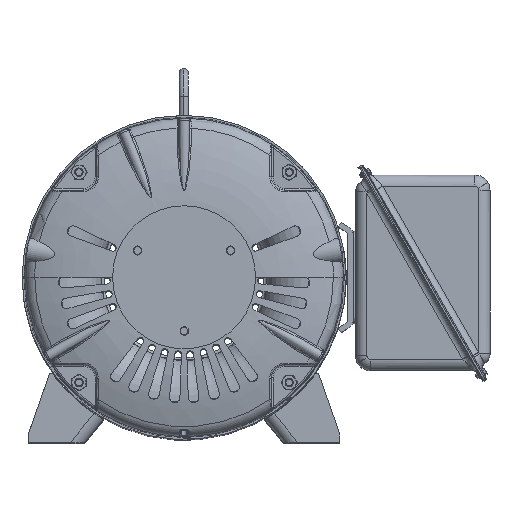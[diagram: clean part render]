
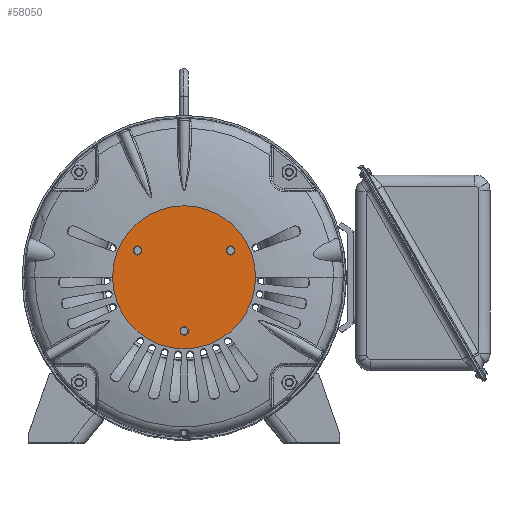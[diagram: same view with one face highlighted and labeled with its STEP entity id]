
A CAD part, top view. The second image highlights one B-rep face of the part: STEP entity #58050.
In plain terms, the highlighted planar face has unit normal (0, 0, 1).
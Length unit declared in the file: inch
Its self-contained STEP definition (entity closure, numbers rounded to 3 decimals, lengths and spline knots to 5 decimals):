
#84 = VERTEX_POINT ( 'NONE', #43289 ) ;
#2286 = AXIS2_PLACEMENT_3D ( 'NONE', #105327, #56581, #16827 ) ;
#3564 = ORIENTED_EDGE ( 'NONE', *, *, #129250, .F. ) ;
#4538 = ORIENTED_EDGE ( 'NONE', *, *, #63570, .F. ) ;
#7477 = VERTEX_POINT ( 'NONE', #18413 ) ;
#7654 = CARTESIAN_POINT ( 'NONE',  ( 0., 0., 19.4398 ) ) ;
#9804 = CARTESIAN_POINT ( 'NONE',  ( -3.08522, 1.78125, 19.4398 ) ) ;
#11006 = FACE_BOUND ( 'NONE', #125329, .T. ) ;
#12562 = AXIS2_PLACEMENT_3D ( 'NONE', #52904, #72868, #12696 ) ;
#12696 = DIRECTION ( 'NONE',  ( 1., 0., 0. ) ) ;
#12960 = ORIENTED_EDGE ( 'NONE', *, *, #101288, .F. ) ;
#14181 = FACE_BOUND ( 'NONE', #67751, .T. ) ;
#15890 = EDGE_CURVE ( 'NONE', #59736, #129161, #131041, .T. ) ;
#15961 = EDGE_CURVE ( 'NONE', #129161, #59736, #77161, .T. ) ;
#16827 = DIRECTION ( 'NONE',  ( 1., 0., 0. ) ) ;
#17368 = DIRECTION ( 'NONE',  ( 0., 0., 1. ) ) ;
#18413 = CARTESIAN_POINT ( 'NONE',  ( -3.25722, 1.78125, 19.4398 ) ) ;
#18658 = ORIENTED_EDGE ( 'NONE', *, *, #15890, .T. ) ;
#23422 = CARTESIAN_POINT ( 'NONE',  ( 0.172, -3.5625, 19.4398 ) ) ;
#26344 = AXIS2_PLACEMENT_3D ( 'NONE', #98304, #88595, #27528 ) ;
#27528 = DIRECTION ( 'NONE',  ( 1., 0., 0. ) ) ;
#27888 = CIRCLE ( 'NONE', #26344, 0.172 ) ;
#31408 = CARTESIAN_POINT ( 'NONE',  ( 0., -3.5625, 19.4398 ) ) ;
#34444 = DIRECTION ( 'NONE',  ( 0., 0., 1. ) ) ;
#35931 = CARTESIAN_POINT ( 'NONE',  ( 2.91322, 1.78125, 19.4398 ) ) ;
#40104 = CARTESIAN_POINT ( 'NONE',  ( -2.91322, 1.78125, 19.4398 ) ) ;
#40420 = CARTESIAN_POINT ( 'NONE',  ( 4.75, 0., 19.4398 ) ) ;
#41875 = VERTEX_POINT ( 'NONE', #76811 ) ;
#41922 = EDGE_LOOP ( 'NONE', ( #4538, #3564 ) ) ;
#42974 = VERTEX_POINT ( 'NONE', #35931 ) ;
#43289 = CARTESIAN_POINT ( 'NONE',  ( 3.25722, 1.78125, 19.4398 ) ) ;
#45532 = DIRECTION ( 'NONE',  ( 1., 0., 0. ) ) ;
#47502 = AXIS2_PLACEMENT_3D ( 'NONE', #59265, #17368, #99609 ) ;
#52904 = CARTESIAN_POINT ( 'NONE',  ( 0., 0., 19.4398 ) ) ;
#53415 = EDGE_CURVE ( 'NONE', #42974, #84, #74562, .T. ) ;
#54039 = VERTEX_POINT ( 'NONE', #40104 ) ;
#56581 = DIRECTION ( 'NONE',  ( 0., 0., 1. ) ) ;
#58050 = ADVANCED_FACE ( 'NONE', ( #14181, #11006, #110724, #131383 ), #82601, .T. ) ;
#58879 = ORIENTED_EDGE ( 'NONE', *, *, #129361, .F. ) ;
#58903 = ORIENTED_EDGE ( 'NONE', *, *, #99486, .F. ) ;
#59265 = CARTESIAN_POINT ( 'NONE',  ( -3.08522, 1.78125, 19.4398 ) ) ;
#59733 = DIRECTION ( 'NONE',  ( 1., 0., 0. ) ) ;
#59736 = VERTEX_POINT ( 'NONE', #40420 ) ;
#62242 = CIRCLE ( 'NONE', #2286, 0.172 ) ;
#63502 = CIRCLE ( 'NONE', #90029, 0.172 ) ;
#63570 = EDGE_CURVE ( 'NONE', #130179, #41875, #63502, .T. ) ;
#66051 = DIRECTION ( 'NONE',  ( 0., 0., 1. ) ) ;
#66342 = EDGE_LOOP ( 'NONE', ( #18658, #102290 ) ) ;
#66632 = AXIS2_PLACEMENT_3D ( 'NONE', #9804, #121276, #90736 ) ;
#67751 = EDGE_LOOP ( 'NONE', ( #58879, #58903 ) ) ;
#72868 = DIRECTION ( 'NONE',  ( 0., 0., 1. ) ) ;
#74562 = CIRCLE ( 'NONE', #102055, 0.172 ) ;
#75783 = CARTESIAN_POINT ( 'NONE',  ( -4.75, 0., 19.4398 ) ) ;
#76811 = CARTESIAN_POINT ( 'NONE',  ( -0.172, -3.5625, 19.4398 ) ) ;
#77161 = CIRCLE ( 'NONE', #115191, 4.75 ) ;
#82601 = PLANE ( 'NONE',  #12562 ) ;
#83160 = DIRECTION ( 'NONE',  ( 1., 0., 0. ) ) ;
#88595 = DIRECTION ( 'NONE',  ( 0., 0., 1. ) ) ;
#88636 = DIRECTION ( 'NONE',  ( 0., 0., 1. ) ) ;
#90029 = AXIS2_PLACEMENT_3D ( 'NONE', #31408, #111894, #83160 ) ;
#90736 = DIRECTION ( 'NONE',  ( 1., 0., 0. ) ) ;
#91660 = DIRECTION ( 'NONE',  ( 1., 0., 0. ) ) ;
#96409 = CARTESIAN_POINT ( 'NONE',  ( 3.08522, 1.78125, 19.4398 ) ) ;
#96604 = AXIS2_PLACEMENT_3D ( 'NONE', #113447, #66051, #91660 ) ;
#98304 = CARTESIAN_POINT ( 'NONE',  ( 0., -3.5625, 19.4398 ) ) ;
#99486 = EDGE_CURVE ( 'NONE', #7477, #54039, #125973, .T. ) ;
#99609 = DIRECTION ( 'NONE',  ( 1., 0., 0. ) ) ;
#101288 = EDGE_CURVE ( 'NONE', #84, #42974, #62242, .T. ) ;
#102055 = AXIS2_PLACEMENT_3D ( 'NONE', #96409, #34444, #45532 ) ;
#102290 = ORIENTED_EDGE ( 'NONE', *, *, #15961, .T. ) ;
#103931 = CIRCLE ( 'NONE', #47502, 0.172 ) ;
#105327 = CARTESIAN_POINT ( 'NONE',  ( 3.08522, 1.78125, 19.4398 ) ) ;
#110724 = FACE_BOUND ( 'NONE', #41922, .T. ) ;
#111894 = DIRECTION ( 'NONE',  ( 0., 0., 1. ) ) ;
#113447 = CARTESIAN_POINT ( 'NONE',  ( 0., 0., 19.4398 ) ) ;
#115191 = AXIS2_PLACEMENT_3D ( 'NONE', #7654, #88636, #59733 ) ;
#115757 = ORIENTED_EDGE ( 'NONE', *, *, #53415, .F. ) ;
#121276 = DIRECTION ( 'NONE',  ( 0., 0., 1. ) ) ;
#125329 = EDGE_LOOP ( 'NONE', ( #12960, #115757 ) ) ;
#125973 = CIRCLE ( 'NONE', #66632, 0.172 ) ;
#129161 = VERTEX_POINT ( 'NONE', #75783 ) ;
#129250 = EDGE_CURVE ( 'NONE', #41875, #130179, #27888, .T. ) ;
#129361 = EDGE_CURVE ( 'NONE', #54039, #7477, #103931, .T. ) ;
#130179 = VERTEX_POINT ( 'NONE', #23422 ) ;
#131041 = CIRCLE ( 'NONE', #96604, 4.75 ) ;
#131383 = FACE_OUTER_BOUND ( 'NONE', #66342, .T. ) ;
